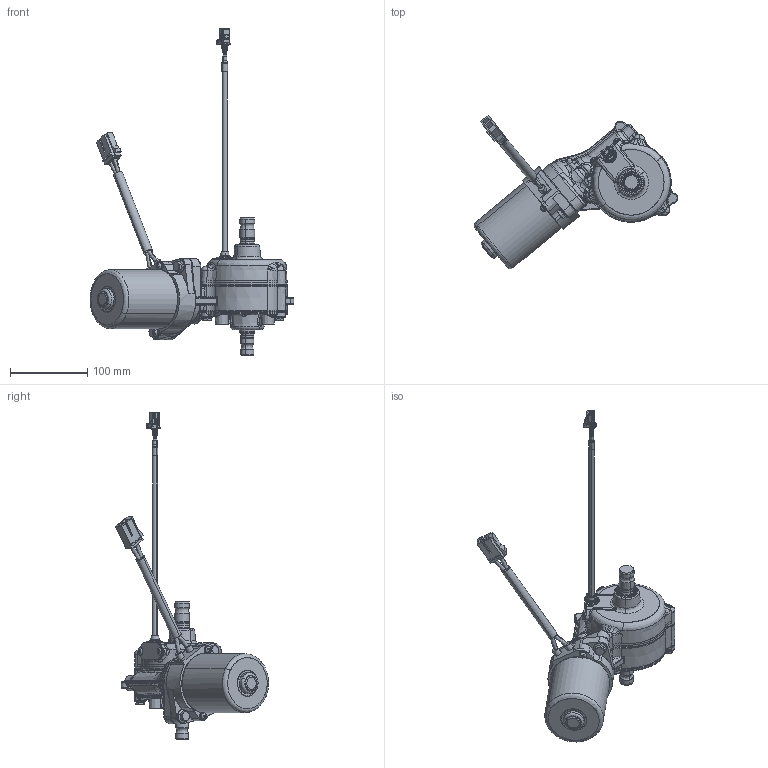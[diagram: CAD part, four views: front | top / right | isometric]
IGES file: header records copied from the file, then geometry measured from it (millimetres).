
Start section: START RECORD GO HERE.
Global section: file name: CA10 ALL-PURPUSE COLUMN EPS.igs; native system: DASSAULT SYSTEMES CATIA Version 5-6 Release 2017 - www.3ds.com; preprocessor: V5-6R2017_5.27.6.0.09-13-2018.20.00; author: kani-; organization: DESKTOP-5OU850M; date: 20220712.162320; units: millimetre
Bounding box: 263.12 x 197.77 x 422.71 mm (x, y, z)
Surface area: 135549.5 mm2 (no closed solid volume)
Topology: 0 solids, 0 shells, 2326 faces, 11966 edges, 11913 vertices
Faces by surface type: plane 976, revolution 916, bspline 434
